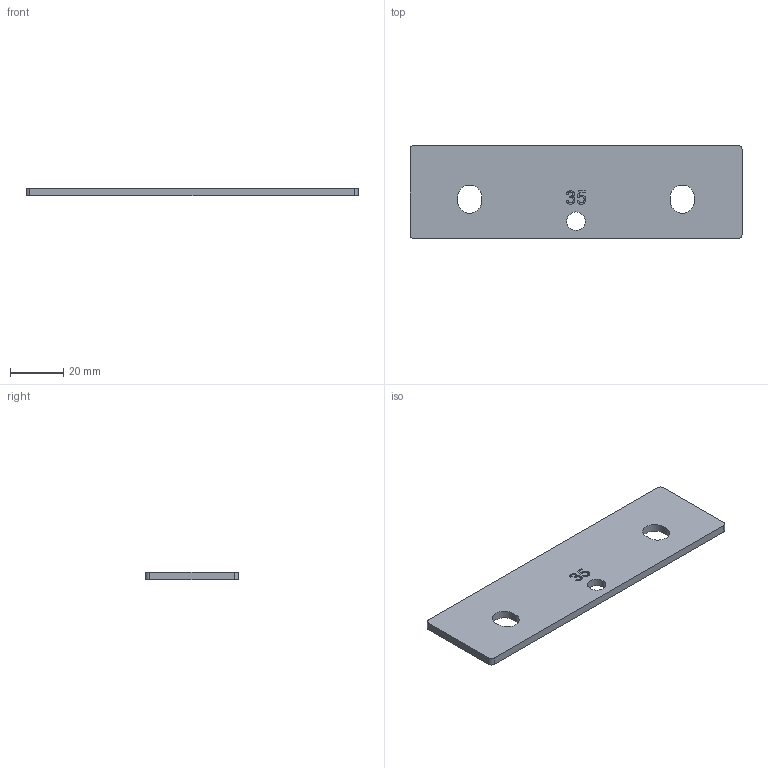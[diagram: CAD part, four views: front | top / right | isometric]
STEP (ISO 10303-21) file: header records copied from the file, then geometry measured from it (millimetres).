
FILE_DESCRIPTION(('STEP AP242'),'1');
FILE_NAME('hm Gressel Hilma.stp','2024-06-17T13:15:10',('WM'),('Schleif-Tec'),'Spatial InterOp 3D','CimatronE 16.0',' ');
FILE_SCHEMA(('AP242_MANAGED_MODEL_BASED_3D_ENGINEERING_MIM_LF'));
Length unit declared in the file: millimetre
Products named in the file (1): 13
Bounding box: 125 x 35 x 3 mm (x, y, z)
Volume: 12533 mm3; surface area: 9573.9 mm2
Topology: 1 solids, 1 shells, 37 faces, 100 edges, 67 vertices
Faces by surface type: plane 22, cylinder 9, extrusion 6
Full cylindrical faces by diameter (mm): 7 x1
Entity records: 1838 total; most frequent: CARTESIAN_POINT 586, ORIENTED_EDGE 196, DIRECTION 174, EDGE_CURVE 98, VECTOR 74, LINE 68, VERTEX_POINT 66, AXIS2_PLACEMENT_3D 50
